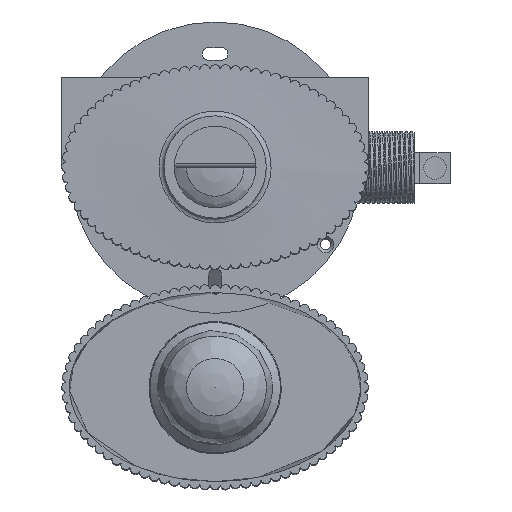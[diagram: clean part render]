
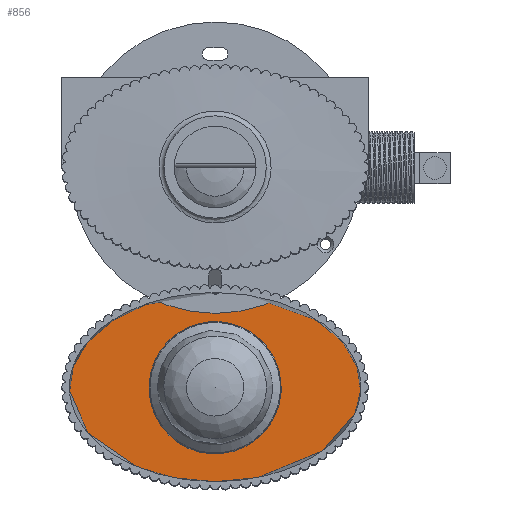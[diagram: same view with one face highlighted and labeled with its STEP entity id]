
A CAD part, top view. The second image highlights one B-rep face of the part: STEP entity #856.
In plain terms, the highlighted planar face has unit normal (0, 0, 1) as drawn and (0, 0, -1) by its records, which use the part's own axes.
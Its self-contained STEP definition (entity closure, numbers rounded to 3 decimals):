
#856 = ADVANCED_FACE( '', ( #2175, #2176 ), #2177, .F. );
#2175 = FACE_OUTER_BOUND( '', #5721, .T. );
#2176 = FACE_BOUND( '', #5722, .T. );
#2177 = PLANE( '', #5723 );
#5721 = EDGE_LOOP( '', ( #10171, #10172 ) );
#5722 = EDGE_LOOP( '', ( #10173 ) );
#5723 = AXIS2_PLACEMENT_3D( '', #10174, #10175, #10176 );
#10171 = ORIENTED_EDGE( '', *, *, #13718, .F. );
#10172 = ORIENTED_EDGE( '', *, *, #13719, .F. );
#10173 = ORIENTED_EDGE( '', *, *, #13720, .F. );
#10174 = CARTESIAN_POINT( '', ( -2., 38.477, 146. ) );
#10175 = DIRECTION( '', ( 0., 0., 1. ) );
#10176 = DIRECTION( '', ( 1., 0., 0. ) );
#13718 = EDGE_CURVE( '', #16287, #16288, #16289, .T. );
#13719 = EDGE_CURVE( '', #16288, #16287, #16290, .T. );
#13720 = EDGE_CURVE( '', #16291, #16291, #16292, .F. );
#16287 = VERTEX_POINT( '', #22096 );
#16288 = VERTEX_POINT( '', #22097 );
#16289 = B_SPLINE_CURVE_WITH_KNOTS( '', 3, ( #22098, #22099, #22100, #22101, #22102, #22103, #22104, #22105, #22106, #22107, #22108, #22109, #22110, #22111, #22112, #22113, #22114, #22115, #22116, #22117, #22118, #22119, #22120, #22121, #22122, #22123, #22124, #22125 ), .UNSPECIFIED., .F., .F., ( 4, 2, 2, 2, 2, 2, 2, 2, 2, 2, 2, 2, 2, 4 ), ( 0., 0., 0.083, 0.167, 0.25, 0.333, 0.417, 0.5, 0.583, 0.667, 0.75, 0.833, 0.917, 1. ), .UNSPECIFIED. );
#16290 = B_SPLINE_CURVE_WITH_KNOTS( '', 3, ( #22126, #22127, #22128, #22129, #22130, #22131, #22132, #22133, #22134, #22135, #22136, #22137, #22138, #22139, #22140, #22141, #22142, #22143, #22144, #22145, #22146, #22147, #22148, #22149, #22150, #22151 ), .UNSPECIFIED., .F., .F., ( 4, 2, 2, 2, 2, 2, 2, 2, 2, 2, 2, 2, 4 ), ( 0., 0.083, 0.167, 0.25, 0.333, 0.417, 0.5, 0.583, 0.667, 0.75, 0.833, 0.917, 1. ), .UNSPECIFIED. );
#16291 = VERTEX_POINT( '', #22152 );
#16292 = CIRCLE( '', #22153, 16. );
#22096 = CARTESIAN_POINT( '', ( 0., -37.003, 146. ) );
#22097 = CARTESIAN_POINT( '', ( 0., 37., 146. ) );
#22098 = CARTESIAN_POINT( '', ( 0., -37.003, 146. ) );
#22099 = CARTESIAN_POINT( '', ( 0., -37.003, 146. ) );
#22100 = CARTESIAN_POINT( '', ( 0., -37.003, 146. ) );
#22101 = CARTESIAN_POINT( '', ( 5.58, -37.003, 146. ) );
#22102 = CARTESIAN_POINT( '', ( 11.16, -36.454, 146. ) );
#22103 = CARTESIAN_POINT( '', ( 21.622, -34.398, 146. ) );
#22104 = CARTESIAN_POINT( '', ( 26.504, -32.892, 146. ) );
#22105 = CARTESIAN_POINT( '', ( 35.134, -29.269, 146. ) );
#22106 = CARTESIAN_POINT( '', ( 38.882, -27.152, 146. ) );
#22107 = CARTESIAN_POINT( '', ( 45.161, -22.692, 146. ) );
#22108 = CARTESIAN_POINT( '', ( 47.692, -20.347, 146. ) );
#22109 = CARTESIAN_POINT( '', ( 51.696, -15.725, 146. ) );
#22110 = CARTESIAN_POINT( '', ( 53.429, -13.142, 146. ) );
#22111 = CARTESIAN_POINT( '', ( 55.971, -7.539, 146. ) );
#22112 = CARTESIAN_POINT( '', ( 56.78, -4.517, 146. ) );
#22113 = CARTESIAN_POINT( '', ( 57.144, 1.785, 146. ) );
#22114 = CARTESIAN_POINT( '', ( 56.697, 5.072, 146. ) );
#22115 = CARTESIAN_POINT( '', ( 54.315, 11.657, 146. ) );
#22116 = CARTESIAN_POINT( '', ( 52.369, 14.951, 146. ) );
#22117 = CARTESIAN_POINT( '', ( 47.026, 21.121, 146. ) );
#22118 = CARTESIAN_POINT( '', ( 43.635, 23.987, 146. ) );
#22119 = CARTESIAN_POINT( '', ( 35.869, 28.911, 146. ) );
#22120 = CARTESIAN_POINT( '', ( 31.508, 30.967, 146. ) );
#22121 = CARTESIAN_POINT( '', ( 22.46, 34.147, 146. ) );
#22122 = CARTESIAN_POINT( '', ( 17.778, 35.271, 146. ) );
#22123 = CARTESIAN_POINT( '', ( 8.64, 36.697, 146. ) );
#22124 = CARTESIAN_POINT( '', ( 4.183, 37., 146. ) );
#22125 = CARTESIAN_POINT( '', ( 0., 37., 146. ) );
#22126 = CARTESIAN_POINT( '', ( 0., 37., 146. ) );
#22127 = CARTESIAN_POINT( '', ( -4.183, 37., 146. ) );
#22128 = CARTESIAN_POINT( '', ( -8.64, 36.697, 146. ) );
#22129 = CARTESIAN_POINT( '', ( -17.778, 35.271, 146. ) );
#22130 = CARTESIAN_POINT( '', ( -22.46, 34.147, 146. ) );
#22131 = CARTESIAN_POINT( '', ( -31.508, 30.967, 146. ) );
#22132 = CARTESIAN_POINT( '', ( -35.869, 28.911, 146. ) );
#22133 = CARTESIAN_POINT( '', ( -43.635, 23.987, 146. ) );
#22134 = CARTESIAN_POINT( '', ( -47.026, 21.121, 146. ) );
#22135 = CARTESIAN_POINT( '', ( -52.369, 14.951, 146. ) );
#22136 = CARTESIAN_POINT( '', ( -54.315, 11.657, 146. ) );
#22137 = CARTESIAN_POINT( '', ( -56.697, 5.072, 146. ) );
#22138 = CARTESIAN_POINT( '', ( -57.144, 1.785, 146. ) );
#22139 = CARTESIAN_POINT( '', ( -56.78, -4.517, 146. ) );
#22140 = CARTESIAN_POINT( '', ( -55.971, -7.539, 146. ) );
#22141 = CARTESIAN_POINT( '', ( -53.429, -13.142, 146. ) );
#22142 = CARTESIAN_POINT( '', ( -51.696, -15.725, 146. ) );
#22143 = CARTESIAN_POINT( '', ( -47.692, -20.347, 146. ) );
#22144 = CARTESIAN_POINT( '', ( -45.161, -22.692, 146. ) );
#22145 = CARTESIAN_POINT( '', ( -38.882, -27.152, 146. ) );
#22146 = CARTESIAN_POINT( '', ( -35.134, -29.269, 146. ) );
#22147 = CARTESIAN_POINT( '', ( -26.504, -32.892, 146. ) );
#22148 = CARTESIAN_POINT( '', ( -21.622, -34.398, 146. ) );
#22149 = CARTESIAN_POINT( '', ( -11.16, -36.454, 146. ) );
#22150 = CARTESIAN_POINT( '', ( -5.58, -37.003, 146. ) );
#22151 = CARTESIAN_POINT( '', ( 0., -37.003, 146. ) );
#22152 = CARTESIAN_POINT( '', ( 16., 0., 146. ) );
#22153 = AXIS2_PLACEMENT_3D( '', #27674, #27675, #27676 );
#27674 = CARTESIAN_POINT( '', ( 0., 0., 146. ) );
#27675 = DIRECTION( '', ( 0., 0., 1. ) );
#27676 = DIRECTION( '', ( 1., 0., 0. ) );
